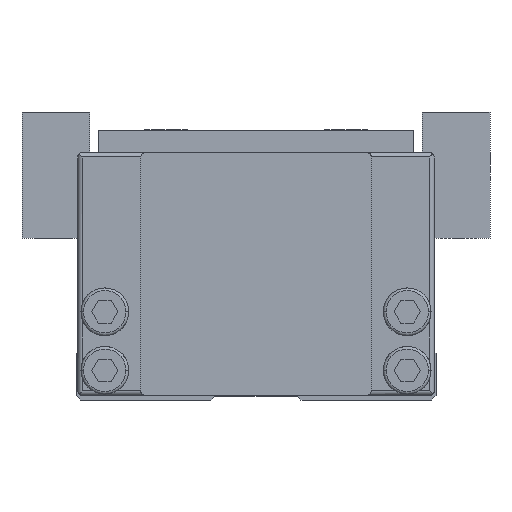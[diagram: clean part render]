
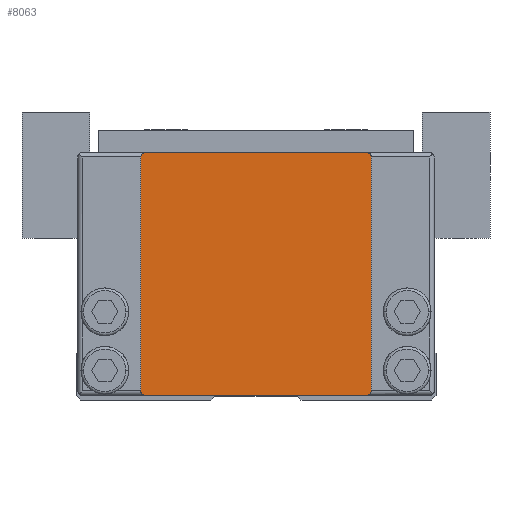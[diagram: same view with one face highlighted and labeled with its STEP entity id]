
A CAD part, front view. The second image highlights one B-rep face of the part: STEP entity #8063.
In plain terms, the highlighted planar face has unit normal (0, -1, 0).
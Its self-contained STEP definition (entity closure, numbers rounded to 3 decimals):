
#5387=EDGE_CURVE('',#12175,#13049,#15214,.T.);
#5527=EDGE_CURVE('',#12309,#8509,#15370,.T.);
#6751=VERTEX_POINT('',#16735);
#8063=ADVANCED_FACE('',(#18204),#18205,.T.);
#8509=VERTEX_POINT('',#18709);
#8939=EDGE_CURVE('',#6751,#12309,#19176,.T.);
#9193=EDGE_CURVE('',#14283,#6751,#19467,.T.);
#11515=EDGE_CURVE('',#8509,#13729,#22011,.T.);
#12175=VERTEX_POINT('',#22741);
#12309=VERTEX_POINT('',#22888);
#12319=EDGE_CURVE('',#13901,#14283,#22898,.T.);
#12465=EDGE_CURVE('',#13049,#13901,#23057,.T.);
#13049=VERTEX_POINT('',#23694);
#13729=VERTEX_POINT('',#24439);
#13777=EDGE_CURVE('',#13729,#12175,#24495,.T.);
#13901=VERTEX_POINT('',#24627);
#14283=VERTEX_POINT('',#25047);
#15214=CIRCLE('',#26300,0.5);
#15370=LINE('',#26541,#26542);
#16735=CARTESIAN_POINT('',(12.8,0.0,1.0));
#18204=FACE_OUTER_BOUND('',#30716,.T.);
#18205=PLANE('',#30717);
#18709=CARTESIAN_POINT('',(-12.3,0.0,0.5));
#19176=CIRCLE('',#32102,0.5);
#19467=LINE('',#32522,#32523);
#22011=CIRCLE('',#36423,0.5);
#22741=CARTESIAN_POINT('',(-12.8,0.0,27.0));
#22888=CARTESIAN_POINT('',(12.3,0.0,0.5));
#22898=CIRCLE('',#37692,0.5);
#23057=LINE('',#37920,#37921);
#23694=CARTESIAN_POINT('',(-12.3,0.0,27.5));
#24439=CARTESIAN_POINT('',(-12.8,0.0,1.0));
#24495=LINE('',#40127,#40128);
#24627=CARTESIAN_POINT('',(12.3,0.0,27.5));
#25047=CARTESIAN_POINT('',(12.8,0.0,27.0));
#26300=AXIS2_PLACEMENT_3D('',#42343,#42344,#42345);
#26541=CARTESIAN_POINT('',(-12.3,0.0,0.5));
#26542=VECTOR('',#42527,1.0);
#30716=EDGE_LOOP('',(#45943,#45944,#45945,#45946,#45947,#45948,#45949,#45950));
#30717=AXIS2_PLACEMENT_3D('',#45951,#45952,#45953);
#32102=AXIS2_PLACEMENT_3D('',#47128,#47129,#47130);
#32522=CARTESIAN_POINT('',(12.8,0.0,1.0));
#32523=VECTOR('',#47532,1.0);
#36423=AXIS2_PLACEMENT_3D('',#50339,#50340,#50341);
#37692=AXIS2_PLACEMENT_3D('',#51266,#51267,#51268);
#37920=CARTESIAN_POINT('',(12.3,0.0,27.5));
#37921=VECTOR('',#51429,1.0);
#40127=CARTESIAN_POINT('',(-12.8,0.0,27.0));
#40128=VECTOR('',#52955,1.0);
#42343=CARTESIAN_POINT('',(-12.3,0.0,27.0));
#42344=DIRECTION('',(0.0,1.0,-0.0));
#42345=DIRECTION('',(0.,0.0,1.0));
#42527=DIRECTION('',(-1.0,0.0,-0.0));
#45943=ORIENTED_EDGE('',*,*,#13777,.F.);
#45944=ORIENTED_EDGE('',*,*,#11515,.F.);
#45945=ORIENTED_EDGE('',*,*,#5527,.F.);
#45946=ORIENTED_EDGE('',*,*,#8939,.F.);
#45947=ORIENTED_EDGE('',*,*,#9193,.F.);
#45948=ORIENTED_EDGE('',*,*,#12319,.F.);
#45949=ORIENTED_EDGE('',*,*,#12465,.F.);
#45950=ORIENTED_EDGE('',*,*,#5387,.F.);
#45951=CARTESIAN_POINT('',(0.,0.0,14.0));
#45952=DIRECTION('',(0.0,-1.0,0.0));
#45953=DIRECTION('',(1.0,0.0,0.0));
#47128=CARTESIAN_POINT('',(12.3,0.0,1.));
#47129=DIRECTION('',(-0.0,1.0,0.0));
#47130=DIRECTION('',(0.0,0.0,-1.0));
#47532=DIRECTION('',(-0.0,0.0,-1.0));
#50339=CARTESIAN_POINT('',(-12.3,0.0,1.));
#50340=DIRECTION('',(0.0,1.0,-0.0));
#50341=DIRECTION('',(-1.0,0.0,0.));
#51266=CARTESIAN_POINT('',(12.3,0.0,27.0));
#51267=DIRECTION('',(-0.0,1.0,0.0));
#51268=DIRECTION('',(1.0,0.0,0.));
#51429=DIRECTION('',(1.0,0.0,0.0));
#52955=DIRECTION('',(0.0,0.0,1.0));
